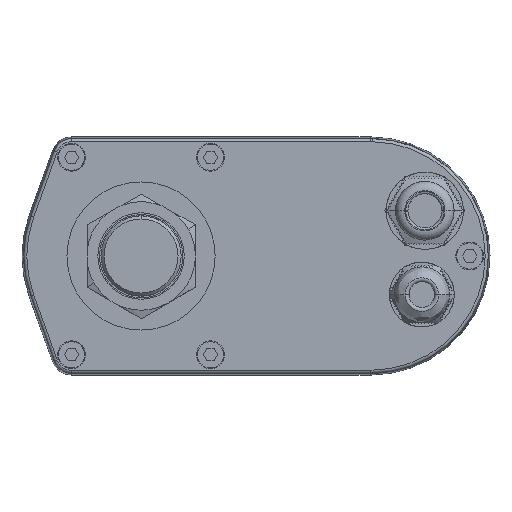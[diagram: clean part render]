
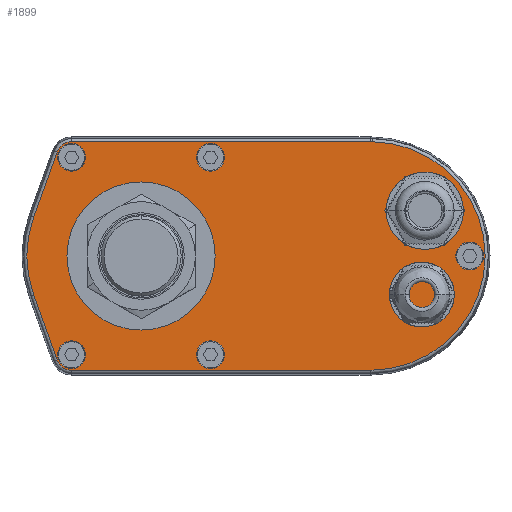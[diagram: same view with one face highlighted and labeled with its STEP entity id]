
A CAD part, left-side view. The second image highlights one B-rep face of the part: STEP entity #1899.
In plain terms, the highlighted planar face has unit normal (-1, 0, 0).
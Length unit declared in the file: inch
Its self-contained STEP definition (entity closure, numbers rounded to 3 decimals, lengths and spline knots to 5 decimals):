
#1899=ADVANCED_FACE('',(#4665,#4666,#4667,#4668,#4669,#4670,#4671,#4672),#4673,.F.);
#4665=FACE_OUTER_BOUND('',#9104,.T.);
#4666=FACE_BOUND('',#9105,.T.);
#4667=FACE_BOUND('',#9106,.T.);
#4668=FACE_BOUND('',#9107,.T.);
#4669=FACE_BOUND('',#9108,.T.);
#4670=FACE_BOUND('',#9109,.T.);
#4671=FACE_BOUND('',#9110,.T.);
#4672=FACE_BOUND('',#9111,.T.);
#4673=PLANE('',#9112);
#9104=EDGE_LOOP('',(#17458,#17459,#17460,#17461,#17462,#17463,#17464,#17465,#17466));
#9105=EDGE_LOOP('',(#17467,#17468));
#9106=EDGE_LOOP('',(#17469,#17470));
#9107=EDGE_LOOP('',(#17471,#17472));
#9108=EDGE_LOOP('',(#17473,#17474));
#9109=EDGE_LOOP('',(#17475,#17476));
#9110=EDGE_LOOP('',(#17477,#17478));
#9111=EDGE_LOOP('',(#17479,#17480));
#9112=AXIS2_PLACEMENT_3D('',#17481,#17482,#17483);
#17458=ORIENTED_EDGE('',*,*,#27253,.T.);
#17459=ORIENTED_EDGE('',*,*,#27254,.T.);
#17460=ORIENTED_EDGE('',*,*,#26961,.T.);
#17461=ORIENTED_EDGE('',*,*,#27255,.T.);
#17462=ORIENTED_EDGE('',*,*,#27256,.T.);
#17463=ORIENTED_EDGE('',*,*,#27257,.T.);
#17464=ORIENTED_EDGE('',*,*,#27258,.T.);
#17465=ORIENTED_EDGE('',*,*,#27259,.T.);
#17466=ORIENTED_EDGE('',*,*,#27260,.T.);
#17467=ORIENTED_EDGE('',*,*,#27261,.F.);
#17468=ORIENTED_EDGE('',*,*,#27108,.F.);
#17469=ORIENTED_EDGE('',*,*,#27262,.F.);
#17470=ORIENTED_EDGE('',*,*,#26739,.F.);
#17471=ORIENTED_EDGE('',*,*,#26325,.F.);
#17472=ORIENTED_EDGE('',*,*,#25991,.F.);
#17473=ORIENTED_EDGE('',*,*,#27263,.F.);
#17474=ORIENTED_EDGE('',*,*,#27264,.F.);
#17475=ORIENTED_EDGE('',*,*,#26994,.F.);
#17476=ORIENTED_EDGE('',*,*,#27265,.F.);
#17477=ORIENTED_EDGE('',*,*,#27266,.F.);
#17478=ORIENTED_EDGE('',*,*,#27267,.F.);
#17479=ORIENTED_EDGE('',*,*,#27268,.F.);
#17480=ORIENTED_EDGE('',*,*,#27269,.F.);
#17481=CARTESIAN_POINT('',(-3.85039,0.,0.));
#17482=DIRECTION('',(1.0,0.0,0.0));
#17483=DIRECTION('',(0.0,1.0,0.0));
#25991=EDGE_CURVE('',#30232,#30227,#30234,.T.);
#26325=EDGE_CURVE('',#30227,#30232,#30840,.T.);
#26739=EDGE_CURVE('',#31565,#31560,#31567,.T.);
#26961=EDGE_CURVE('',#31930,#31935,#31937,.T.);
#26994=EDGE_CURVE('',#31989,#31976,#31991,.T.);
#27108=EDGE_CURVE('',#32181,#32176,#32183,.T.);
#27253=EDGE_CURVE('',#32414,#32415,#32416,.T.);
#27254=EDGE_CURVE('',#32415,#31930,#32417,.T.);
#27255=EDGE_CURVE('',#31935,#32418,#32419,.T.);
#27256=EDGE_CURVE('',#32418,#32420,#32421,.T.);
#27257=EDGE_CURVE('',#32420,#32422,#32423,.T.);
#27258=EDGE_CURVE('',#32422,#32424,#32425,.T.);
#27259=EDGE_CURVE('',#32424,#32426,#32427,.T.);
#27260=EDGE_CURVE('',#32426,#32414,#32428,.T.);
#27261=EDGE_CURVE('',#32176,#32181,#32429,.T.);
#27262=EDGE_CURVE('',#31560,#31565,#32430,.T.);
#27263=EDGE_CURVE('',#32431,#32432,#32433,.T.);
#27264=EDGE_CURVE('',#32432,#32431,#32434,.T.);
#27265=EDGE_CURVE('',#31976,#31989,#32435,.T.);
#27266=EDGE_CURVE('',#32436,#32437,#32438,.T.);
#27267=EDGE_CURVE('',#32437,#32436,#32439,.T.);
#27268=EDGE_CURVE('',#32440,#32441,#32442,.T.);
#27269=EDGE_CURVE('',#32441,#32440,#32443,.T.);
#30227=VERTEX_POINT('',#36386);
#30232=VERTEX_POINT('',#36392);
#30234=CIRCLE('',#36395,0.17717);
#30840=CIRCLE('',#37272,0.17717);
#31560=VERTEX_POINT('',#38422);
#31565=VERTEX_POINT('',#38428);
#31567=CIRCLE('',#38431,0.17717);
#31930=VERTEX_POINT('',#38988);
#31935=VERTEX_POINT('',#38994);
#31937=LINE('',#38996,#38997);
#31976=VERTEX_POINT('',#39053);
#31989=VERTEX_POINT('',#39069);
#31991=CIRCLE('',#39072,0.17717);
#32176=VERTEX_POINT('',#39403);
#32181=VERTEX_POINT('',#39409);
#32183=CIRCLE('',#39412,0.94488);
#32414=VERTEX_POINT('',#39842);
#32415=VERTEX_POINT('',#39843);
#32416=LINE('',#39844,#39845);
#32417=CIRCLE('',#39846,1.45737);
#32418=VERTEX_POINT('',#39847);
#32419=CIRCLE('',#39848,0.19753);
#32420=VERTEX_POINT('',#39849);
#32421=LINE('',#39850,#39851);
#32422=VERTEX_POINT('',#39852);
#32423=CIRCLE('',#39853,1.45737);
#32424=VERTEX_POINT('',#39854);
#32425=CIRCLE('',#39855,1.45737);
#32426=VERTEX_POINT('',#39856);
#32427=LINE('',#39857,#39858);
#32428=CIRCLE('',#39859,0.19753);
#32429=CIRCLE('',#39860,0.94488);
#32430=CIRCLE('',#39861,0.17717);
#32431=VERTEX_POINT('',#39862);
#32432=VERTEX_POINT('',#39863);
#32433=CIRCLE('',#39864,0.17717);
#32434=CIRCLE('',#39865,0.17717);
#32435=CIRCLE('',#39866,0.17717);
#32436=VERTEX_POINT('',#39867);
#32437=VERTEX_POINT('',#39868);
#32438=CIRCLE('',#39869,0.17717);
#32439=CIRCLE('',#39870,0.17717);
#32440=VERTEX_POINT('',#39871);
#32441=VERTEX_POINT('',#39872);
#32442=CIRCLE('',#39873,0.24606);
#32443=CIRCLE('',#39874,0.24606);
#36386=CARTESIAN_POINT('',(-3.85039,-0.88583,1.08268));
#36392=CARTESIAN_POINT('',(-3.85039,-0.88583,1.43701));
#36395=AXIS2_PLACEMENT_3D('',#47004,#47005,#47006);
#37272=AXIS2_PLACEMENT_3D('',#47527,#47528,#47529);
#38422=CARTESIAN_POINT('',(-3.85039,0.88583,1.08268));
#38428=CARTESIAN_POINT('',(-3.85039,0.88583,1.43701));
#38431=AXIS2_PLACEMENT_3D('',#48053,#48054,#48055);
#38988=CARTESIAN_POINT('',(-3.85039,1.37142,-0.49309));
#38994=CARTESIAN_POINT('',(-3.85039,1.07171,-1.32668));
#38996=CARTESIAN_POINT('',(-3.85039,1.37142,-0.49309));
#38997=VECTOR('',#48317,0.88583);
#39053=CARTESIAN_POINT('',(-3.85039,0.88583,-1.08268));
#39069=CARTESIAN_POINT('',(-3.85039,0.88583,-1.43701));
#39072=AXIS2_PLACEMENT_3D('',#48368,#48369,#48370);
#39403=CARTESIAN_POINT('',(-3.85039,0.,-0.94488));
#39409=CARTESIAN_POINT('',(-3.85039,0.,0.94488));
#39412=AXIS2_PLACEMENT_3D('',#48527,#48528,#48529);
#39842=CARTESIAN_POINT('',(-3.85039,1.07171,1.32668));
#39843=CARTESIAN_POINT('',(-3.85039,1.37142,0.49309));
#39844=CARTESIAN_POINT('',(-3.85039,1.07171,1.32668));
#39845=VECTOR('',#48691,0.88583);
#39846=AXIS2_PLACEMENT_3D('',#48692,#48693,#48694);
#39847=CARTESIAN_POINT('',(-3.85039,0.88583,-1.45737));
#39848=AXIS2_PLACEMENT_3D('',#48695,#48696,#48697);
#39849=CARTESIAN_POINT('',(-3.85039,-2.93307,-1.45737));
#39850=CARTESIAN_POINT('',(-3.85039,0.88583,-1.45737));
#39851=VECTOR('',#48698,3.8189);
#39852=CARTESIAN_POINT('',(-3.85039,-2.94857,1.45729));
#39853=AXIS2_PLACEMENT_3D('',#48699,#48700,#48701);
#39854=CARTESIAN_POINT('',(-3.85039,-2.93307,1.45737));
#39855=AXIS2_PLACEMENT_3D('',#48702,#48703,#48704);
#39856=CARTESIAN_POINT('',(-3.85039,0.88583,1.45737));
#39857=CARTESIAN_POINT('',(-3.85039,-2.93307,1.45737));
#39858=VECTOR('',#48705,3.8189);
#39859=AXIS2_PLACEMENT_3D('',#48706,#48707,#48708);
#39860=AXIS2_PLACEMENT_3D('',#48709,#48710,#48711);
#39861=AXIS2_PLACEMENT_3D('',#48712,#48713,#48714);
#39862=CARTESIAN_POINT('',(-3.85039,-0.88583,-1.43701));
#39863=CARTESIAN_POINT('',(-3.85039,-0.88583,-1.08268));
#39864=AXIS2_PLACEMENT_3D('',#48715,#48716,#48717);
#39865=AXIS2_PLACEMENT_3D('',#48718,#48719,#48720);
#39866=AXIS2_PLACEMENT_3D('',#48721,#48722,#48723);
#39867=CARTESIAN_POINT('',(-3.85039,-4.19291,-0.17717));
#39868=CARTESIAN_POINT('',(-3.85039,-4.19291,0.17717));
#39869=AXIS2_PLACEMENT_3D('',#48724,#48725,#48726);
#39870=AXIS2_PLACEMENT_3D('',#48727,#48728,#48729);
#39871=CARTESIAN_POINT('',(-3.85039,-3.6207,0.33093));
#39872=CARTESIAN_POINT('',(-3.85039,-3.6207,0.82305));
#39873=AXIS2_PLACEMENT_3D('',#48730,#48731,#48732);
#39874=AXIS2_PLACEMENT_3D('',#48733,#48734,#48735);
#47004=CARTESIAN_POINT('',(-3.85039,-0.88583,1.25984));
#47005=DIRECTION('',(-1.0,0.0,0.0));
#47006=DIRECTION('',(0.0,0.0,1.0));
#47527=CARTESIAN_POINT('',(-3.85039,-0.88583,1.25984));
#47528=DIRECTION('',(-1.0,0.0,0.0));
#47529=DIRECTION('',(0.0,0.0,-1.0));
#48053=CARTESIAN_POINT('',(-3.85039,0.88583,1.25984));
#48054=DIRECTION('',(-1.0,0.0,0.0));
#48055=DIRECTION('',(0.0,0.0,1.0));
#48317=DIRECTION('',(0.0,-0.338,-0.941));
#48368=CARTESIAN_POINT('',(-3.85039,0.88583,-1.25984));
#48369=DIRECTION('',(-1.0,0.0,0.0));
#48370=DIRECTION('',(0.0,0.0,-1.0));
#48527=CARTESIAN_POINT('',(-3.85039,0.,0.));
#48528=DIRECTION('',(-1.0,0.0,0.0));
#48529=DIRECTION('',(0.0,0.0,1.0));
#48691=DIRECTION('',(0.0,0.338,-0.941));
#48692=CARTESIAN_POINT('',(-3.85039,0.,0.));
#48693=DIRECTION('',(-1.0,0.0,0.0));
#48694=DIRECTION('',(0.0,0.941,0.338));
#48695=CARTESIAN_POINT('',(-3.85039,0.88583,-1.25984));
#48696=DIRECTION('',(-1.0,0.0,0.0));
#48697=DIRECTION('',(0.0,0.941,-0.338));
#48698=DIRECTION('',(0.0,-1.0,0.0));
#48699=CARTESIAN_POINT('',(-3.85039,-2.93307,0.));
#48700=DIRECTION('',(-1.0,0.0,0.0));
#48701=DIRECTION('',(0.0,0.0,-1.0));
#48702=CARTESIAN_POINT('',(-3.85039,-2.93307,0.));
#48703=DIRECTION('',(-1.0,0.0,0.0));
#48704=DIRECTION('',(0.0,0.0,-1.0));
#48705=DIRECTION('',(0.0,1.0,0.0));
#48706=CARTESIAN_POINT('',(-3.85039,0.88583,1.25984));
#48707=DIRECTION('',(-1.0,0.0,0.0));
#48708=DIRECTION('',(0.0,0.0,1.0));
#48709=CARTESIAN_POINT('',(-3.85039,0.,0.));
#48710=DIRECTION('',(-1.0,0.0,0.0));
#48711=DIRECTION('',(0.0,0.0,-1.0));
#48712=CARTESIAN_POINT('',(-3.85039,0.88583,1.25984));
#48713=DIRECTION('',(-1.0,0.0,0.0));
#48714=DIRECTION('',(0.0,0.0,-1.0));
#48715=CARTESIAN_POINT('',(-3.85039,-0.88583,-1.25984));
#48716=DIRECTION('',(-1.0,0.0,0.0));
#48717=DIRECTION('',(0.0,0.0,-1.0));
#48718=CARTESIAN_POINT('',(-3.85039,-0.88583,-1.25984));
#48719=DIRECTION('',(-1.0,0.0,0.0));
#48720=DIRECTION('',(0.0,0.0,1.0));
#48721=CARTESIAN_POINT('',(-3.85039,0.88583,-1.25984));
#48722=DIRECTION('',(-1.0,0.0,0.0));
#48723=DIRECTION('',(0.0,0.0,1.0));
#48724=CARTESIAN_POINT('',(-3.85039,-4.19291,0.));
#48725=DIRECTION('',(-1.0,0.0,0.0));
#48726=DIRECTION('',(0.0,0.0,-1.0));
#48727=CARTESIAN_POINT('',(-3.85039,-4.19291,0.));
#48728=DIRECTION('',(-1.0,0.0,0.0));
#48729=DIRECTION('',(0.0,0.0,1.0));
#48730=CARTESIAN_POINT('',(-3.85039,-3.6207,0.57699));
#48731=DIRECTION('',(-1.0,0.0,0.0));
#48732=DIRECTION('',(0.0,0.0,-1.0));
#48733=CARTESIAN_POINT('',(-3.85039,-3.6207,0.57699));
#48734=DIRECTION('',(-1.0,0.0,0.0));
#48735=DIRECTION('',(0.0,0.0,1.0));
